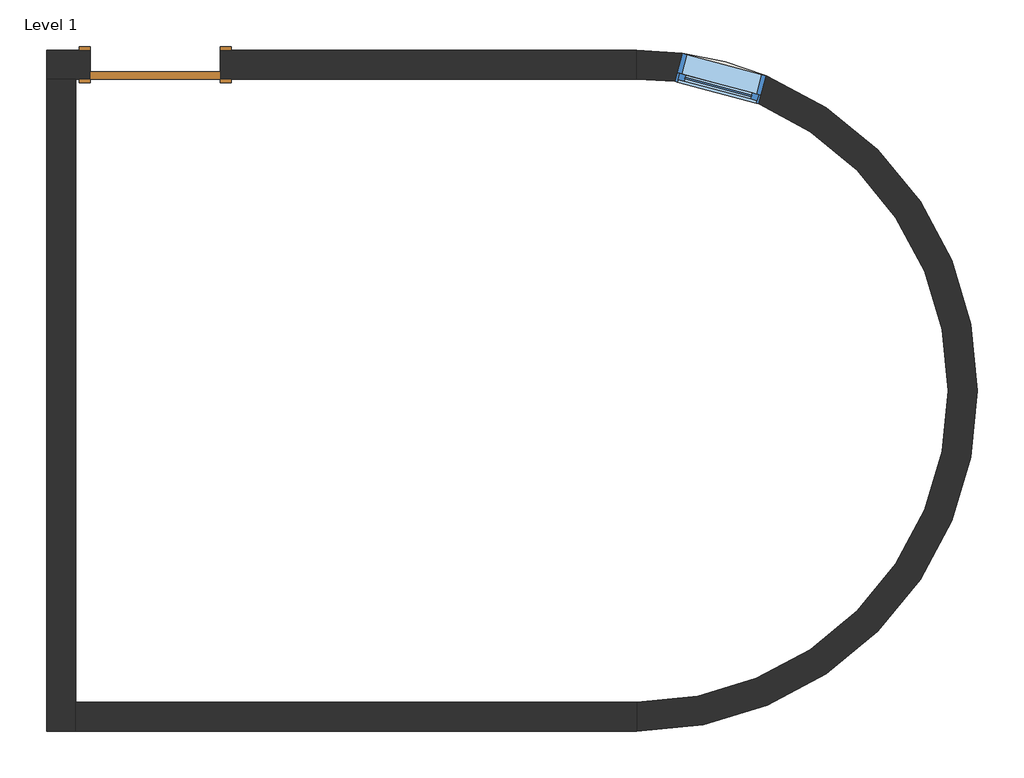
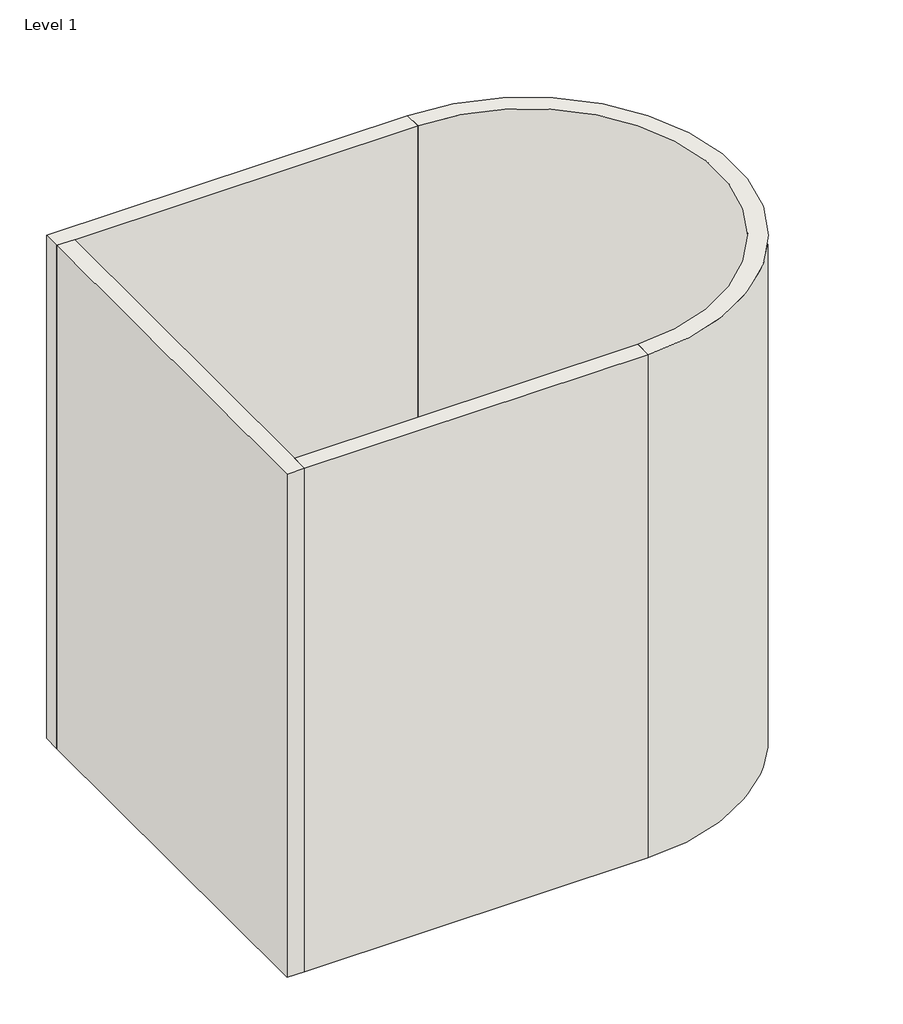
# One storey: 4 walls, 1 door, 1 window.
"""IFC4 building model written with IfcOpenShell, lengths in millimetres."""

from ifc_helpers import new_model, si_unit, frame, origin, origin_with_axes, place, context, project, spatial, polyline, circle_curve, outline, extrude, faceted_brep, transform, mapped, element, save
from ifc_brep_helpers import plane_surface, cylinder_surface, revolved_surface, advanced_brep
from components import door_54dd4da4, window_80bd9af0

model = new_model("IFC4")

# Units and contexts
model_context = context("Model", 3, world=origin())
ifc_project = project(units=[si_unit("LENGTHUNIT", "METRE", prefix="MILLI")], contexts=[model_context])

# Site, building, storey
site = spatial("IfcSite", under=ifc_project)
building = spatial("IfcBuilding", under=site)
storey = spatial("IfcBuildingStorey", under=building, Name="Level 1", Elevation=0.0)

# Door
placement = place(None, origin())
door_shape = door_54dd4da4(model_context)
element("IfcDoor", 1, ObjectType="Single-Flush : 36\" x 84\"", at=placement, inside=storey, context=model_context, shape_type="MappedRepresentation", body=[
    mapped(door_shape, transform((1966.693003, 1768.4388617, 0.0), x_axis=(-1.0, 0.0, 0.0), y_axis=(0.0, -1.0, 0.0), z_axis=(0.0, 0.0, 1.0))),
])

# Walls
element("IfcWall", 2, ObjectType="Generic - 8\"", at=placement, inside=storey, context=model_context, shape_type="Brep", body=[
    faceted_brep([(1204.693003, 1666.8388617, 0.0), (1407.893003, 1666.8388617, 0.0), (1509.493003, 1666.8388617, 0.0), (1509.493003, 1666.8388617, 2133.6), (2423.893003, 1666.8388617, 2133.6), (2423.893003, 1666.8388617, 0.0), (5344.893003, 1666.8388617, 0.0), (5344.893003, 1666.8388617, 6096.0), (1407.893003, 1666.8388617, 6096.0), (1204.693003, 1666.8388617, 6096.0), (1509.493003, 1870.0388617, 2133.6), (1509.493003, 1870.0388617, 0.0), (1204.693003, 1870.0388617, 0.0), (1204.693003, 1870.0388617, 6096.0), (5344.893003, 1870.0388617, 6096.0), (5344.893003, 1870.0388617, 0.0), (2423.893003, 1870.0388617, 0.0), (2423.893003, 1870.0388617, 2133.6)], [[[0, 1, 2, 3, 4, 5, 6, 7, 8, 9]], [[10, 11, 12, 13, 14, 15, 16, 17]], [[12, 11, 2, 1, 0]], [[16, 15, 6, 5]], [[7, 6, 15, 14]], [[9, 8, 7, 14, 13]], [[0, 9, 13, 12]], [[3, 2, 11, 10]], [[4, 3, 10, 17]], [[5, 4, 17, 16]]]),
])
element("IfcWall", 3, ObjectType="Generic - 8\"", at=placement, inside=storey, context=model_context, shape_type="Brep", body=[
    faceted_brep([(1407.893003, -2905.1611383, 0.0), (1407.893003, -2701.9611383, 0.0), (1407.893003, 1666.8388617, 0.0), (1407.893003, 1666.8388617, 6096.0), (1407.893003, -2701.9611383, 6096.0), (1407.893003, -2905.1611383, 6096.0), (1204.693003, -2905.1611383, 0.0), (1204.693003, -2905.1611383, 6096.0), (1204.693003, 1666.8388617, 6096.0), (1204.693003, 1666.8388617, 0.0)], [[[0, 1, 2, 3, 4, 5]], [[6, 7, 8, 9]], [[2, 1, 0, 6, 9]], [[5, 4, 3, 8, 7]], [[0, 5, 7, 6]], [[3, 2, 9, 8]]]),
])
element("IfcWall", 4, ObjectType="Generic - 8\"", at=placement, inside=storey, context=model_context, shape_type="SweptSolid", body=[
    extrude(outline(polyline([(5344.893003, -2905.1611383), (1407.893003, -2905.1611383), (1407.893003, -2701.9611383), (5344.893003, -2701.9611383), (5344.893003, -2905.1611383)])), origin_with_axes(), (0.0, 0.0, 1.0), 6096.0),
])
element("IfcWall", 5, ObjectType="Generic - 8\"", at=placement, inside=storey, context=model_context, shape_type="AdvancedBrep", body=[
    advanced_brep(
    [(5344.893003, 1666.8388617, 6096.0), (5344.893003, -2701.9611383, 6096.0), (5344.893003, -2905.1611383, 6096.0), (5344.893003, 1870.0388617, 6096.0), (5344.893003, 1666.8388617, 0.0), (5344.893003, 1870.0388617, 0.0), (5344.893003, -2905.1611383, 0.0), (5344.893003, -2701.9611383, 0.0), (5610.3122623, 1650.6537903, 2133.6), (6199.140646, 1492.8777005, 2133.6), (6199.140646, 1492.8777005, 914.4), (5610.3122623, 1650.6537903, 914.4), (5663.3790717, 1848.7018192, 2133.6), (5663.3790717, 1848.7018192, 914.4), (6252.2074554, 1690.9257293, 914.4), (6252.2074554, 1690.9257293, 2133.6)],
    [
        (0, 1, circle_curve(frame((5344.893003, -517.5611383, 6096.0), z_axis=(0.0, 0.0, -1.0), x_axis=(1.0, 0.0, 0.0)), 2184.4)),
        (1, 2),
        (2, 3, circle_curve(frame((5344.893003, -517.5611383, 6096.0), z_axis=(0.0, 0.0, 1.0), x_axis=(1.0, 0.0, 0.0)), 2387.6)),
        (3, 0),
        (4, 5),
        (5, 6, circle_curve(frame((5344.893003, -517.5611383, 0.0), z_axis=(0.0, 0.0, -1.0), x_axis=(1.0, 0.0, 0.0)), 2387.6)),
        (6, 7),
        (7, 4, circle_curve(frame((5344.893003, -517.5611383, 0.0), z_axis=(0.0, 0.0, 1.0), x_axis=(1.0, 0.0, 0.0)), 2184.4)),
        (0, 4),
        (7, 1),
        (8, 9, circle_curve(frame((5344.893003, -517.5611383, 2133.6), z_axis=(0.0, 0.0, -1.0), x_axis=(1.0, 0.0, 0.0)), 2184.4)),
        (9, 10),
        (10, 11, circle_curve(frame((5344.893003, -517.5611383, 914.4), z_axis=(0.0, 0.0, 1.0), x_axis=(1.0, 0.0, 0.0)), 2184.4)),
        (11, 8),
        (6, 2),
        (5, 3),
        (12, 13),
        (13, 14, circle_curve(frame((5344.893003, -517.5611383, 914.4), z_axis=(0.0, 0.0, -1.0), x_axis=(1.0, 0.0, 0.0)), 2387.6)),
        (14, 15),
        (15, 12, circle_curve(frame((5344.893003, -517.5611383, 2133.6), z_axis=(0.0, 0.0, 1.0), x_axis=(1.0, 0.0, 0.0)), 2387.6)),
        (12, 8),
        (11, 13),
        (10, 14),
        (9, 15),
    ],
    [
        plane_surface(frame((7529.293003, -517.5611383, 6096.0), z_axis=(0.0, 0.0, 1.0), x_axis=(0.0, -1.0, 0.0))),
        plane_surface(frame((7529.293003, -517.5611383, 0.0), z_axis=(0.0, 0.0, -1.0), x_axis=(0.0, 1.0, 0.0))),
        revolved_surface(polyline([(7529.293003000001, -517.5611383, 0.0), (7529.293003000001, -517.5611383, 6096.0)]), (5344.893003, -517.5611383, 0.0), (0.0, 0.0, -1.0)),
        plane_surface(frame((5344.893003, -2701.9611383, 6096.0), z_axis=(-1.0, 0.0, 0.0), x_axis=(0.0, 0.0, -1.0))),
        cylinder_surface(frame((5344.893003, -517.5611383, 0.0), z_axis=(0.0, 0.0, 1.0), x_axis=(1.0, 0.0, 0.0)), 2387.6),
        plane_surface(frame((5344.893003, 1870.0388617, 6096.0), z_axis=(-1.0, 0.0, 0.0), x_axis=(0.0, 0.0, -1.0))),
        plane_surface(frame((5663.3790717, 1848.7018192, 2133.6), z_axis=(0.9659258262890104, -0.2588190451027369, 0.0), x_axis=(-0.2588190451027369, -0.9659258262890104, 0.0))),
        plane_surface(frame((5663.3790717, 1848.7018192, 914.4), z_axis=(0.0, 0.0, 1.0), x_axis=(-0.2588190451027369, -0.9659258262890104, 0.0))),
        plane_surface(frame((6252.2074554, 1690.9257293, 914.4), z_axis=(-0.9659258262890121, 0.25881904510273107, 0.0), x_axis=(-0.25881904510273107, -0.9659258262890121, 0.0))),
        plane_surface(frame((6252.2074554, 1690.9257293, 2133.6), z_axis=(0.0, 0.0, -1.0000000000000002), x_axis=(-0.25881904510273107, -0.9659258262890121, 0.0))),
    ],
    [
        (0, [[1, 2, 3, 4]]),
        (1, [[5, 6, 7, 8]]),
        (2, [[-1, 9, -8, 10], [11, 12, 13, 14]]),
        (3, [[-2, -10, -7, 15]]),
        (4, [[-3, -15, -6, 16], [17, 18, 19, 20]]),
        (5, [[-4, -16, -5, -9]]),
        (6, [[-17, 21, -14, 22]]),
        (7, [[-18, -22, -13, 23]]),
        (8, [[-19, -23, -12, 24]]),
        (9, [[-20, -24, -11, -21]]),
    ],
),
])

# Window
window_shape = window_80bd9af0(model_context)
element("IfcWindow", 6, ObjectType="Fixed : 24\" x 48\"", at=placement, inside=storey, context=model_context, shape_type="MappedRepresentation", body=[
    mapped(window_shape, transform((5894.2206952, 1679.764815, 0.0), x_axis=(-0.9659258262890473, 0.25881904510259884, 0.0), y_axis=(-0.25881904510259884, -0.9659258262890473, 0.0), z_axis=(0.0, 0.0, 1.0))),
])

save(model, "model.ifc")
